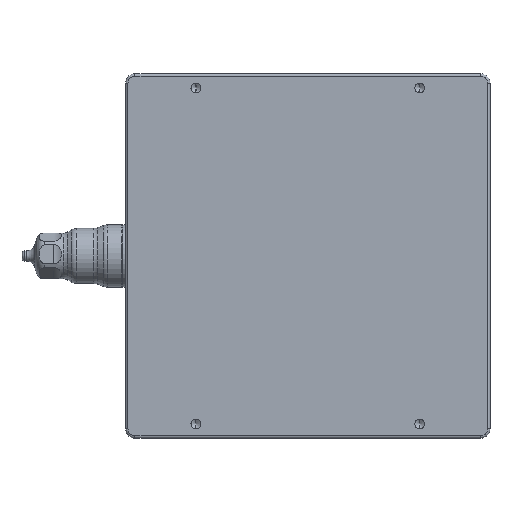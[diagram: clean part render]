
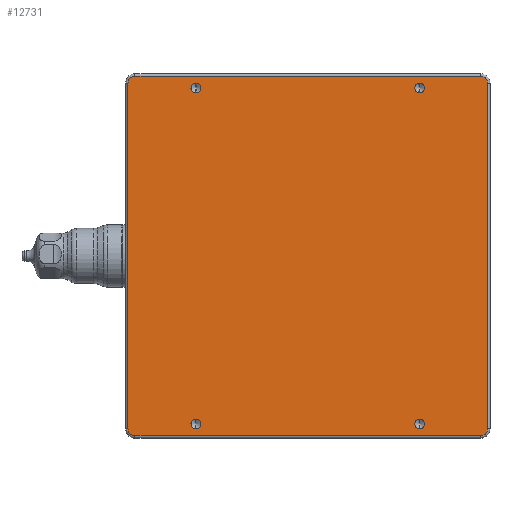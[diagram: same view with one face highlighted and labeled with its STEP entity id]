
A CAD part, front view. The second image highlights one B-rep face of the part: STEP entity #12731.
In plain terms, the highlighted planar face has unit normal (0, -1, 0) as drawn and (0, 0, 1) by its records, which use the part's own axes.
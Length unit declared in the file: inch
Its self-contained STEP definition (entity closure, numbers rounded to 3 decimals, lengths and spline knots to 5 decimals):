
#190 = DIRECTION ( 'NONE',  ( 1., 0., 0. ) ) ;
#394 = DIRECTION ( 'NONE',  ( 0., 0., 1. ) ) ;
#434 = EDGE_LOOP ( 'NONE', ( #7777, #20484 ) ) ;
#452 = EDGE_CURVE ( 'NONE', #24690, #26062, #8750, .T. ) ;
#453 = AXIS2_PLACEMENT_3D ( 'NONE', #20723, #27632, #6411 ) ;
#691 = VECTOR ( 'NONE', #21963, 39.37008 ) ;
#898 = CIRCLE ( 'NONE', #2288, 0.06496 ) ;
#1211 = EDGE_CURVE ( 'NONE', #13315, #23980, #17610, .T. ) ;
#1795 = AXIS2_PLACEMENT_3D ( 'NONE', #14646, #9732, #19464 ) ;
#1985 = CARTESIAN_POINT ( 'NONE',  ( -2.28, -2.28, 0. ) ) ;
#2288 = AXIS2_PLACEMENT_3D ( 'NONE', #9714, #29001, #190 ) ;
#2599 = FACE_BOUND ( 'NONE', #24048, .T. ) ;
#2721 = ORIENTED_EDGE ( 'NONE', *, *, #7418, .T. ) ;
#2825 = DIRECTION ( 'NONE',  ( -1., 0., 0. ) ) ;
#2880 = VERTEX_POINT ( 'NONE', #11796 ) ;
#3064 = CARTESIAN_POINT ( 'NONE',  ( 2.217, 1.47638, 0. ) ) ;
#3343 = CIRCLE ( 'NONE', #453, 0.06496 ) ;
#3825 = VERTEX_POINT ( 'NONE', #4610 ) ;
#4088 = AXIS2_PLACEMENT_3D ( 'NONE', #19950, #13158, #8325 ) ;
#4213 = ORIENTED_EDGE ( 'NONE', *, *, #14679, .T. ) ;
#4434 = CARTESIAN_POINT ( 'NONE',  ( -2.28, 2.28, 0. ) ) ;
#4610 = CARTESIAN_POINT ( 'NONE',  ( -2.373, 2.28, 0. ) ) ;
#4707 = EDGE_CURVE ( 'NONE', #8968, #13315, #18959, .T. ) ;
#5054 = AXIS2_PLACEMENT_3D ( 'NONE', #10025, #394, #19243 ) ;
#5430 = VERTEX_POINT ( 'NONE', #25919 ) ;
#5446 = CARTESIAN_POINT ( 'NONE',  ( -2.28196, -1.47638, 0. ) ) ;
#5503 = EDGE_CURVE ( 'NONE', #26062, #24690, #21896, .T. ) ;
#5647 = EDGE_CURVE ( 'NONE', #13886, #6475, #14016, .T. ) ;
#6411 = DIRECTION ( 'NONE',  ( 1., 0., 0. ) ) ;
#6475 = VERTEX_POINT ( 'NONE', #23566 ) ;
#6847 = DIRECTION ( 'NONE',  ( 0., 0., 1. ) ) ;
#6946 = EDGE_CURVE ( 'NONE', #28706, #14579, #27292, .T. ) ;
#6963 = ORIENTED_EDGE ( 'NONE', *, *, #19644, .F. ) ;
#7125 = AXIS2_PLACEMENT_3D ( 'NONE', #14433, #7425, #19138 ) ;
#7418 = EDGE_CURVE ( 'NONE', #15361, #5430, #9711, .T. ) ;
#7425 = DIRECTION ( 'NONE',  ( 0., 0., 1. ) ) ;
#7777 = ORIENTED_EDGE ( 'NONE', *, *, #452, .F. ) ;
#7827 = CARTESIAN_POINT ( 'NONE',  ( -2.373, 0., 0. ) ) ;
#8325 = DIRECTION ( 'NONE',  ( 1., 0., 0. ) ) ;
#8531 = CIRCLE ( 'NONE', #28873, 0.093 ) ;
#8750 = CIRCLE ( 'NONE', #4088, 0.06496 ) ;
#8968 = VERTEX_POINT ( 'NONE', #25554 ) ;
#9131 = DIRECTION ( 'NONE',  ( 0., 0., 1. ) ) ;
#9647 = FACE_BOUND ( 'NONE', #25698, .T. ) ;
#9711 = CIRCLE ( 'NONE', #23323, 0.093 ) ;
#9714 = CARTESIAN_POINT ( 'NONE',  ( 2.217, -1.47638, 0. ) ) ;
#9732 = DIRECTION ( 'NONE',  ( 0., 0., 1. ) ) ;
#9816 = AXIS2_PLACEMENT_3D ( 'NONE', #27141, #29581, #29678 ) ;
#10025 = CARTESIAN_POINT ( 'NONE',  ( -2.217, 1.47638, 0. ) ) ;
#10441 = CARTESIAN_POINT ( 'NONE',  ( 2.373, 0., 0. ) ) ;
#10851 = EDGE_CURVE ( 'NONE', #14579, #28706, #23360, .T. ) ;
#11025 = CARTESIAN_POINT ( 'NONE',  ( -2.28196, 1.47638, 0. ) ) ;
#11101 = VECTOR ( 'NONE', #24459, 39.37008 ) ;
#11182 = FACE_OUTER_BOUND ( 'NONE', #19937, .T. ) ;
#11258 = CARTESIAN_POINT ( 'NONE',  ( -2.28, 2.373, 0. ) ) ;
#11271 = EDGE_CURVE ( 'NONE', #16886, #2880, #898, .T. ) ;
#11300 = VERTEX_POINT ( 'NONE', #19242 ) ;
#11355 = DIRECTION ( 'NONE',  ( 1., 0., 0. ) ) ;
#11530 = FACE_BOUND ( 'NONE', #434, .T. ) ;
#11726 = ORIENTED_EDGE ( 'NONE', *, *, #6946, .F. ) ;
#11796 = CARTESIAN_POINT ( 'NONE',  ( 2.15204, -1.47638, 0. ) ) ;
#12197 = LINE ( 'NONE', #10441, #11101 ) ;
#12731 = ADVANCED_FACE ( 'NONE', ( #13031, #11530, #9647, #2599, #11182 ), #25708, .T. ) ;
#12833 = EDGE_LOOP ( 'NONE', ( #19962, #11726 ) ) ;
#13031 = FACE_BOUND ( 'NONE', #12833, .T. ) ;
#13055 = CARTESIAN_POINT ( 'NONE',  ( -2.373, -2.28, 0. ) ) ;
#13103 = CIRCLE ( 'NONE', #15136, 0.093 ) ;
#13158 = DIRECTION ( 'NONE',  ( 0., 0., 1. ) ) ;
#13233 = CARTESIAN_POINT ( 'NONE',  ( 2.28, -2.373, 0. ) ) ;
#13315 = VERTEX_POINT ( 'NONE', #30751 ) ;
#13349 = ORIENTED_EDGE ( 'NONE', *, *, #5647, .F. ) ;
#13802 = EDGE_CURVE ( 'NONE', #23980, #3825, #13103, .T. ) ;
#13842 = AXIS2_PLACEMENT_3D ( 'NONE', #30068, #22927, #27760 ) ;
#13886 = VERTEX_POINT ( 'NONE', #28408 ) ;
#14016 = CIRCLE ( 'NONE', #29135, 0.06496 ) ;
#14297 = EDGE_CURVE ( 'NONE', #6475, #13886, #3343, .T. ) ;
#14433 = CARTESIAN_POINT ( 'NONE',  ( -2.217, -1.47638, 0. ) ) ;
#14579 = VERTEX_POINT ( 'NONE', #17013 ) ;
#14646 = CARTESIAN_POINT ( 'NONE',  ( 2.217, -1.47638, 0. ) ) ;
#14679 = EDGE_CURVE ( 'NONE', #3825, #14815, #18207, .T. ) ;
#14815 = VERTEX_POINT ( 'NONE', #13055 ) ;
#15136 = AXIS2_PLACEMENT_3D ( 'NONE', #4434, #6847, #11355 ) ;
#15361 = VERTEX_POINT ( 'NONE', #13233 ) ;
#15993 = CARTESIAN_POINT ( 'NONE',  ( 0., 0., 0. ) ) ;
#16886 = VERTEX_POINT ( 'NONE', #25536 ) ;
#16902 = CARTESIAN_POINT ( 'NONE',  ( 0., 2.373, 0. ) ) ;
#17013 = CARTESIAN_POINT ( 'NONE',  ( -2.15204, -1.47638, 0. ) ) ;
#17610 = LINE ( 'NONE', #16902, #24721 ) ;
#18207 = LINE ( 'NONE', #7827, #691 ) ;
#18959 = CIRCLE ( 'NONE', #9816, 0.093 ) ;
#19125 = ORIENTED_EDGE ( 'NONE', *, *, #4707, .T. ) ;
#19138 = DIRECTION ( 'NONE',  ( 1., 0., 0. ) ) ;
#19242 = CARTESIAN_POINT ( 'NONE',  ( -2.28, -2.373, 0. ) ) ;
#19243 = DIRECTION ( 'NONE',  ( 1., 0., 0. ) ) ;
#19464 = DIRECTION ( 'NONE',  ( 1., 0., 0. ) ) ;
#19644 = EDGE_CURVE ( 'NONE', #2880, #16886, #22226, .T. ) ;
#19937 = EDGE_LOOP ( 'NONE', ( #21002, #19125, #22336, #21756, #4213, #24151, #29850, #2721 ) ) ;
#19950 = CARTESIAN_POINT ( 'NONE',  ( -2.217, 1.47638, 0. ) ) ;
#19962 = ORIENTED_EDGE ( 'NONE', *, *, #10851, .F. ) ;
#20484 = ORIENTED_EDGE ( 'NONE', *, *, #5503, .F. ) ;
#20689 = ORIENTED_EDGE ( 'NONE', *, *, #14297, .F. ) ;
#20723 = CARTESIAN_POINT ( 'NONE',  ( 2.217, 1.47638, 0. ) ) ;
#21002 = ORIENTED_EDGE ( 'NONE', *, *, #21582, .T. ) ;
#21114 = DIRECTION ( 'NONE',  ( 1., 0., 0. ) ) ;
#21396 = LINE ( 'NONE', #29857, #24017 ) ;
#21582 = EDGE_CURVE ( 'NONE', #5430, #8968, #12197, .T. ) ;
#21756 = ORIENTED_EDGE ( 'NONE', *, *, #13802, .T. ) ;
#21896 = CIRCLE ( 'NONE', #5054, 0.06496 ) ;
#21963 = DIRECTION ( 'NONE',  ( 0., -1., 0. ) ) ;
#22170 = DIRECTION ( 'NONE',  ( 1., 0., 0. ) ) ;
#22226 = CIRCLE ( 'NONE', #1795, 0.06496 ) ;
#22336 = ORIENTED_EDGE ( 'NONE', *, *, #1211, .T. ) ;
#22353 = CARTESIAN_POINT ( 'NONE',  ( -2.15204, 1.47638, 0. ) ) ;
#22622 = EDGE_CURVE ( 'NONE', #11300, #15361, #21396, .T. ) ;
#22927 = DIRECTION ( 'NONE',  ( 0., 0., 1. ) ) ;
#23323 = AXIS2_PLACEMENT_3D ( 'NONE', #28237, #30848, #21114 ) ;
#23360 = CIRCLE ( 'NONE', #13842, 0.06496 ) ;
#23437 = DIRECTION ( 'NONE',  ( 1., 0., 0. ) ) ;
#23566 = CARTESIAN_POINT ( 'NONE',  ( 2.28196, 1.47638, 0. ) ) ;
#23980 = VERTEX_POINT ( 'NONE', #11258 ) ;
#24017 = VECTOR ( 'NONE', #27648, 39.37008 ) ;
#24048 = EDGE_LOOP ( 'NONE', ( #20689, #13349 ) ) ;
#24151 = ORIENTED_EDGE ( 'NONE', *, *, #30970, .T. ) ;
#24459 = DIRECTION ( 'NONE',  ( 0., 1., 0. ) ) ;
#24690 = VERTEX_POINT ( 'NONE', #22353 ) ;
#24721 = VECTOR ( 'NONE', #2825, 39.37008 ) ;
#24765 = DIRECTION ( 'NONE',  ( 0., 0., 1. ) ) ;
#25536 = CARTESIAN_POINT ( 'NONE',  ( 2.28196, -1.47638, 0. ) ) ;
#25554 = CARTESIAN_POINT ( 'NONE',  ( 2.373, 2.28, 0. ) ) ;
#25698 = EDGE_LOOP ( 'NONE', ( #28750, #6963 ) ) ;
#25708 = PLANE ( 'NONE',  #29567 ) ;
#25856 = DIRECTION ( 'NONE',  ( 1., 0., 0. ) ) ;
#25919 = CARTESIAN_POINT ( 'NONE',  ( 2.373, -2.28, 0. ) ) ;
#26062 = VERTEX_POINT ( 'NONE', #11025 ) ;
#27141 = CARTESIAN_POINT ( 'NONE',  ( 2.28, 2.28, 0. ) ) ;
#27292 = CIRCLE ( 'NONE', #7125, 0.06496 ) ;
#27632 = DIRECTION ( 'NONE',  ( 0., 0., 1. ) ) ;
#27648 = DIRECTION ( 'NONE',  ( 1., 0., 0. ) ) ;
#27760 = DIRECTION ( 'NONE',  ( 1., 0., 0. ) ) ;
#28237 = CARTESIAN_POINT ( 'NONE',  ( 2.28, -2.28, 0. ) ) ;
#28408 = CARTESIAN_POINT ( 'NONE',  ( 2.15204, 1.47638, 0. ) ) ;
#28706 = VERTEX_POINT ( 'NONE', #5446 ) ;
#28750 = ORIENTED_EDGE ( 'NONE', *, *, #11271, .F. ) ;
#28873 = AXIS2_PLACEMENT_3D ( 'NONE', #1985, #9131, #25856 ) ;
#29001 = DIRECTION ( 'NONE',  ( 0., 0., 1. ) ) ;
#29135 = AXIS2_PLACEMENT_3D ( 'NONE', #3064, #24765, #22170 ) ;
#29567 = AXIS2_PLACEMENT_3D ( 'NONE', #15993, #30579, #23437 ) ;
#29581 = DIRECTION ( 'NONE',  ( 0., 0., 1. ) ) ;
#29678 = DIRECTION ( 'NONE',  ( 1., 0., 0. ) ) ;
#29850 = ORIENTED_EDGE ( 'NONE', *, *, #22622, .T. ) ;
#29857 = CARTESIAN_POINT ( 'NONE',  ( 0., -2.373, 0. ) ) ;
#30068 = CARTESIAN_POINT ( 'NONE',  ( -2.217, -1.47638, 0. ) ) ;
#30579 = DIRECTION ( 'NONE',  ( 0., 0., 1. ) ) ;
#30751 = CARTESIAN_POINT ( 'NONE',  ( 2.28, 2.373, 0. ) ) ;
#30848 = DIRECTION ( 'NONE',  ( 0., 0., 1. ) ) ;
#30970 = EDGE_CURVE ( 'NONE', #14815, #11300, #8531, .T. ) ;
